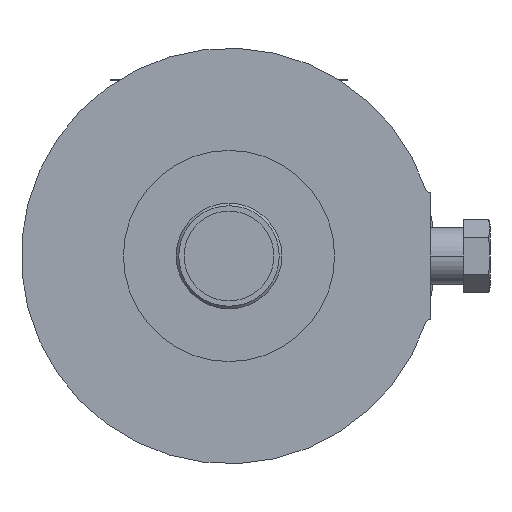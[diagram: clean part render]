
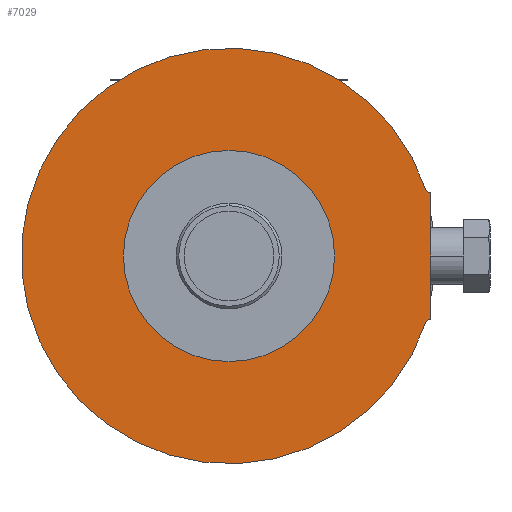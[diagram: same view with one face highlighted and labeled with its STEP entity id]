
A CAD part, front view. The second image highlights one B-rep face of the part: STEP entity #7029.
In plain terms, the highlighted planar face has unit normal (0, -1, 0).
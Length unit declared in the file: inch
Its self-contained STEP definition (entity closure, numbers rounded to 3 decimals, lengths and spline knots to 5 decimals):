
#4806=DIRECTION('',(1.,0.,0.));
#4807=VECTOR('',#4806,0.00373);
#4808=CARTESIAN_POINT('',(2.38627,-4.9,-0.75));
#4809=LINE('',#4808,#4807);
#4823=DIRECTION('',(1.,0.,0.));
#4824=VECTOR('',#4823,0.00373);
#4825=CARTESIAN_POINT('',(2.38627,-4.9,0.75));
#4826=LINE('',#4825,#4824);
#5593=DIRECTION('',(0.,0.,-1.));
#5594=VECTOR('',#5593,1.5);
#5595=CARTESIAN_POINT('',(2.39,-4.9,0.75));
#5596=LINE('',#5595,#5594);
#5597=CARTESIAN_POINT('',(2.38627,-4.9,-0.81));
#5598=DIRECTION('',(0.,-1.,0.));
#5599=DIRECTION('',(0.,0.,1.));
#5600=AXIS2_PLACEMENT_3D('',#5597,#5598,#5599);
#5602=CARTESIAN_POINT('',(0.,-4.9,0.));
#5603=DIRECTION('',(0.,1.,0.));
#5604=DIRECTION('',(0.947,0.,-0.321));
#5605=AXIS2_PLACEMENT_3D('',#5602,#5603,#5604);
#5607=CARTESIAN_POINT('',(2.38627,-4.9,0.81));
#5608=DIRECTION('',(0.,-1.,0.));
#5609=DIRECTION('',(-0.947,0.,-0.321));
#5610=AXIS2_PLACEMENT_3D('',#5607,#5608,#5609);
#5879=CARTESIAN_POINT('',(2.32946,-4.9,-0.79071));
#5880=CARTESIAN_POINT('',(2.32946,-4.9,0.79071));
#5881=VERTEX_POINT('',#5879);
#5882=VERTEX_POINT('',#5880);
#5883=CARTESIAN_POINT('',(2.38627,-4.9,0.75));
#5884=VERTEX_POINT('',#5883);
#5885=CARTESIAN_POINT('',(2.38627,-4.9,-0.75));
#5886=VERTEX_POINT('',#5885);
#5887=CARTESIAN_POINT('',(2.39,-4.9,-0.75));
#5889=VERTEX_POINT('',#5887);
#5893=CARTESIAN_POINT('',(2.39,-4.9,0.75));
#5894=VERTEX_POINT('',#5893);
#7013=CARTESIAN_POINT('',(0.,-4.9,0.));
#7014=DIRECTION('',(0.,-1.,0.));
#7015=DIRECTION('',(-1.,0.,0.));
#7016=AXIS2_PLACEMENT_3D('',#7013,#7014,#7015);
#7017=PLANE('',#7016);
#7019=ORIENTED_EDGE('',*,*,#7018,.T.);
#7020=ORIENTED_EDGE('',*,*,#6144,.F.);
#7022=ORIENTED_EDGE('',*,*,#7021,.T.);
#7023=ORIENTED_EDGE('',*,*,#6103,.T.);
#7025=ORIENTED_EDGE('',*,*,#7024,.T.);
#7026=ORIENTED_EDGE('',*,*,#6171,.T.);
#7027=EDGE_LOOP('',(#7019,#7020,#7022,#7023,#7025,#7026));
#7028=FACE_OUTER_BOUND('',#7027,.F.);
#7029=ADVANCED_FACE('',(#7028),#7017,.T.);
#5601=CIRCLE('',#5600,0.06);
#5606=CIRCLE('',#5605,2.46);
#5611=CIRCLE('',#5610,0.06);
#6103=EDGE_CURVE('',#5881,#5882,#5606,.T.);
#6144=EDGE_CURVE('',#5886,#5889,#4809,.T.);
#6171=EDGE_CURVE('',#5884,#5894,#4826,.T.);
#7018=EDGE_CURVE('',#5894,#5889,#5596,.T.);
#7021=EDGE_CURVE('',#5886,#5881,#5601,.T.);
#7024=EDGE_CURVE('',#5882,#5884,#5611,.T.);
